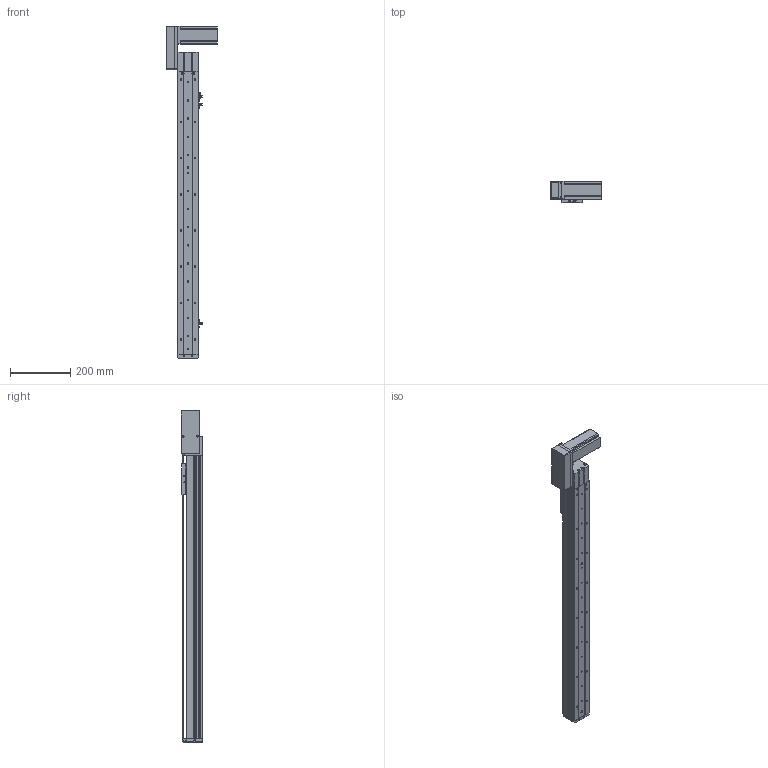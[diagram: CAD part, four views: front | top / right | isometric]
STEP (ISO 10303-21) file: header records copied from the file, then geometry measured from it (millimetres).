
FILE_DESCRIPTION (( 'STEP AP214' ), '1' );
FILE_NAME ('KSD68BS-S750-MRB-CM.STEP', '2019-11-06T07:33:18', ( '微软用户' ), ( '微软中国' ), 'SwSTEP 2.0', 'SolidWorks 2014', '' );
FILE_SCHEMA (( 'AUTOMOTIVE_DESIGN' ));
Length unit declared in the file: millimetre
Products named in the file (11): KSD68BS 750俴最裔啣圉猾敕; 覜茼え68遵圉猾敕; KSD68BS半封闭同步带传动导轨座; U倰嫖萇EEㄜSX672; 台达ECMA－C20604AS伺服电机（400W); KSD68BS 750俴最菁啣圉猾敕; KSD68BS-S750-MRB-CM; 悵誘欶奻狟殏; 68宽马达安装板连板上折同步带; 68宽单导轨半封闭同步带主动轮座右; 68单导轨同步带半封闭端板
Assembly tree (12 placements, depth 2):
  KSD68BS-S750-MRB-CM
    KSD68BS 750俴最菁啣圉猾敕
    台达ECMA－C20604AS伺服电机（400W)
    U倰嫖萇EEㄜSX672  x3
    KSD68BS半封闭同步带传动导轨座
    覜茼え68遵圉猾敕
    KSD68BS 750俴最裔啣圉猾敕
    68单导轨同步带半封闭端板
    68宽单导轨半封闭同步带主动轮座右
    68宽马达安装板连板上折同步带
    悵誘欶奻狟殏
Bounding box: 167.2 x 70.5 x 1099.5 mm (x, y, z)
Volume: 2055644.6 mm3; surface area: 701979.9 mm2
Topology: 13 solids, 13 shells, 1338 faces, 3826 edges, 2486 vertices
Faces by surface type: cylinder 660, plane 595, cone 83
Entity records: 48545 total; most frequent: CARTESIAN_POINT 9122, ORIENTED_EDGE 6404, DIRECTION 6364, EDGE_CURVE 3202, AXIS2_PLACEMENT_3D 2280, VERTEX_POINT 2110, VECTOR 1804, LINE 1804
